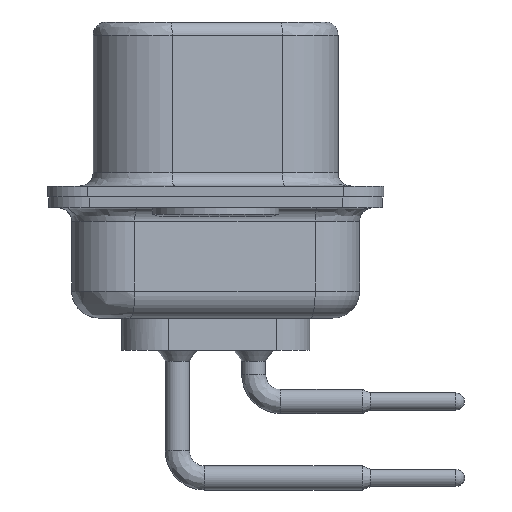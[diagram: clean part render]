
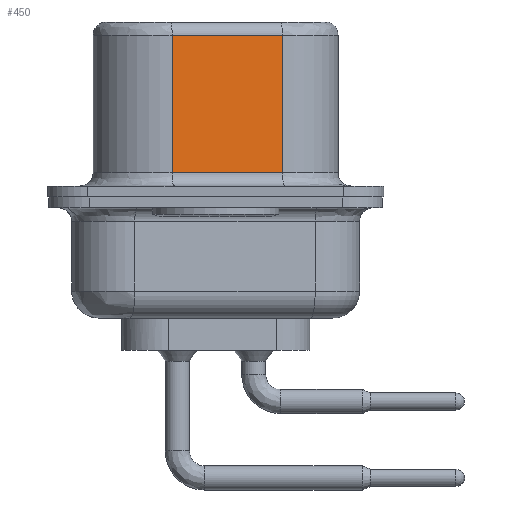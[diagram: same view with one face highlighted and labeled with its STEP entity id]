
A CAD part, left-side view. The second image highlights one B-rep face of the part: STEP entity #450.
In plain terms, the highlighted planar face has unit normal (0.985, 0.174, 0).
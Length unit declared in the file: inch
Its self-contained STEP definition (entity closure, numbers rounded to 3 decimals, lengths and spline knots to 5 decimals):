
#450 = ADVANCED_FACE ( 'NONE', ( #15985 ), #20181, .F. ) ;
#701 = EDGE_LOOP ( 'NONE', ( #26520, #22689, #10991, #32935 ) ) ;
#1098 = DIRECTION ( 'NONE',  ( 0.174, -0.985, 0. ) ) ;
#1581 = VERTEX_POINT ( 'NONE', #21211 ) ;
#2245 = CARTESIAN_POINT ( 'NONE',  ( -0.31847, -0.0978, 0.33504 ) ) ;
#4884 = CARTESIAN_POINT ( 'NONE',  ( -0.34693, 0.06365, 0.33504 ) ) ;
#5403 = VERTEX_POINT ( 'NONE', #2245 ) ;
#5524 = VECTOR ( 'NONE', #10077, 39.37008 ) ;
#6984 = DIRECTION ( 'NONE',  ( 0., 0., 1. ) ) ;
#7383 = VECTOR ( 'NONE', #30981, 39.37008 ) ;
#9387 = VERTEX_POINT ( 'NONE', #11506 ) ;
#9832 = CARTESIAN_POINT ( 'NONE',  ( -0.31847, -0.0978, 0.13386 ) ) ;
#10077 = DIRECTION ( 'NONE',  ( 0.174, -0.985, 0. ) ) ;
#10734 = VECTOR ( 'NONE', #6984, 39.37008 ) ;
#10991 = ORIENTED_EDGE ( 'NONE', *, *, #11362, .T. ) ;
#11362 = EDGE_CURVE ( 'NONE', #1581, #9387, #21546, .T. ) ;
#11506 = CARTESIAN_POINT ( 'NONE',  ( -0.34693, 0.06362, 0.33504 ) ) ;
#12417 = CARTESIAN_POINT ( 'NONE',  ( -0.34731, 0.0658, 0.13386 ) ) ;
#12541 = DIRECTION ( 'NONE',  ( 0.174, -0.985, 0. ) ) ;
#14104 = EDGE_CURVE ( 'NONE', #1581, #31124, #21112, .T. ) ;
#14794 = CARTESIAN_POINT ( 'NONE',  ( -0.34693, 0.06362, 0.09843 ) ) ;
#15985 = FACE_OUTER_BOUND ( 'NONE', #701, .T. ) ;
#18954 = VECTOR ( 'NONE', #12541, 39.37008 ) ;
#20181 = PLANE ( 'NONE',  #20510 ) ;
#20510 = AXIS2_PLACEMENT_3D ( 'NONE', #14794, #33983, #1098 ) ;
#20991 = LINE ( 'NONE', #4884, #5524 ) ;
#21112 = LINE ( 'NONE', #12417, #18954 ) ;
#21211 = CARTESIAN_POINT ( 'NONE',  ( -0.34693, 0.06362, 0.13386 ) ) ;
#21546 = LINE ( 'NONE', #28553, #7383 ) ;
#22689 = ORIENTED_EDGE ( 'NONE', *, *, #14104, .F. ) ;
#23044 = CARTESIAN_POINT ( 'NONE',  ( -0.31847, -0.0978, 0.09843 ) ) ;
#24050 = LINE ( 'NONE', #23044, #10734 ) ;
#26520 = ORIENTED_EDGE ( 'NONE', *, *, #28718, .F. ) ;
#28553 = CARTESIAN_POINT ( 'NONE',  ( -0.34693, 0.06362, 0.09843 ) ) ;
#28718 = EDGE_CURVE ( 'NONE', #31124, #5403, #24050, .T. ) ;
#29527 = EDGE_CURVE ( 'NONE', #9387, #5403, #20991, .T. ) ;
#30981 = DIRECTION ( 'NONE',  ( 0., 0., 1. ) ) ;
#31124 = VERTEX_POINT ( 'NONE', #9832 ) ;
#32935 = ORIENTED_EDGE ( 'NONE', *, *, #29527, .T. ) ;
#33983 = DIRECTION ( 'NONE',  ( -0.985, -0.174, 0. ) ) ;
